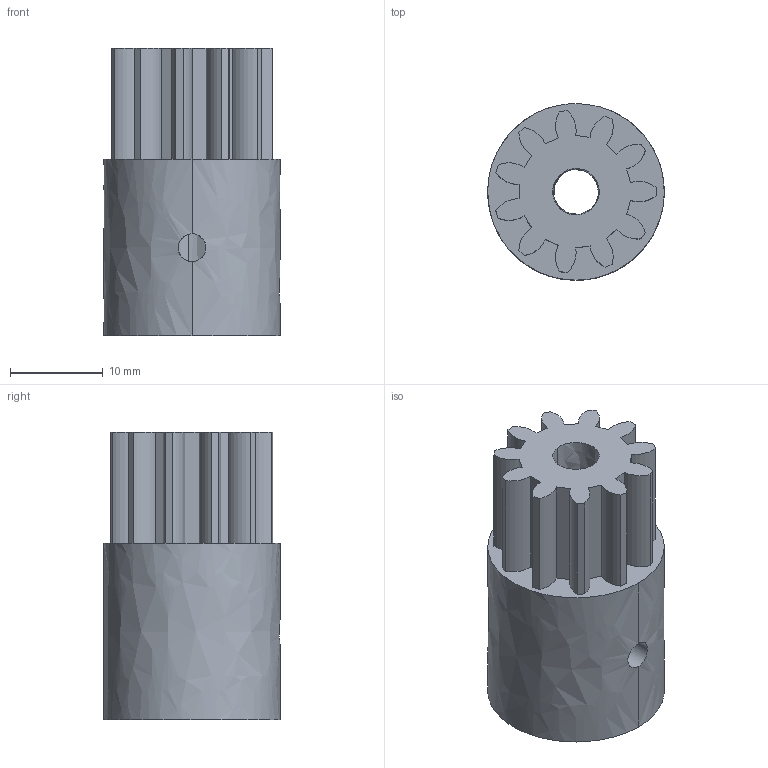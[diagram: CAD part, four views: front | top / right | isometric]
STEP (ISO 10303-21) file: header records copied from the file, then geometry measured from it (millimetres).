
FILE_DESCRIPTION( ( '' ), ' ' );
FILE_NAME( '/vol/tmp/translate-4696640219063872051/5ae2df5e612ee40fb1981108.step', '2018-04-27T08:29:19', ( '' ), ( '' ), ' ', ' ', ' ' );
FILE_SCHEMA( ( 'AUTOMOTIVE_DESIGN { 1 0 10303 214 1 1 1 1 }' ) );
Length unit declared in the file: metre
Products named in the file (1): BREP1
Bounding box: 19 x 19 x 31 mm (x, y, z)
Volume: 6615.9 mm3; surface area: 3455.9 mm2
Topology: 1 solids, 1 shells, 60 faces, 174 edges, 116 vertices
Faces by surface type: plane 30, bspline 30
Entity records: 3329 total; most frequent: CARTESIAN_POINT 1780, ORIENTED_EDGE 348, EDGE_CURVE 174, VERTEX_POINT 116, B_SPLINE_CURVE_WITH_KNOTS 96, EDGE_LOOP 66, DIRECTION 62, STYLED_ITEM 60
